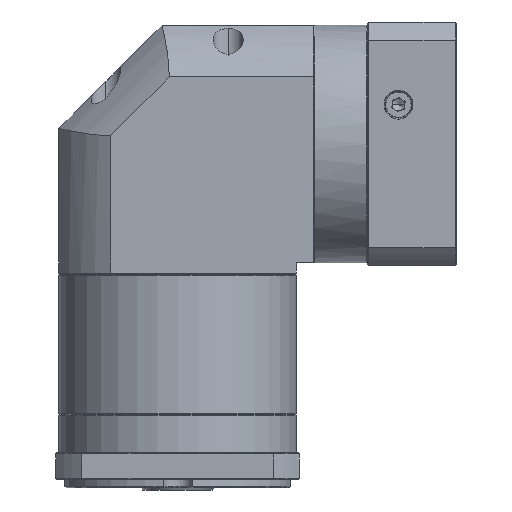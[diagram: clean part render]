
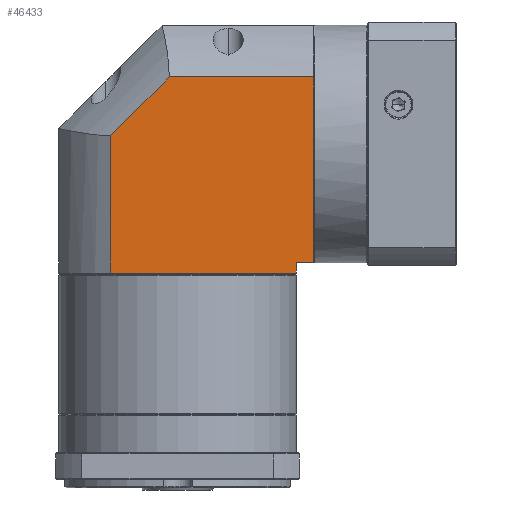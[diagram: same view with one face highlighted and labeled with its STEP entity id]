
A CAD part, front view. The second image highlights one B-rep face of the part: STEP entity #46433.
In plain terms, the highlighted planar face has unit normal (0, -1, 0).
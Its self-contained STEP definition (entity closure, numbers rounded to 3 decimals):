
#1845 = DIRECTION ( 'NONE',  ( 0.707, 0., 0.707 ) ) ;
#3006 = LINE ( 'NONE', #110003, #16989 ) ;
#5012 = CARTESIAN_POINT ( 'NONE',  ( -10.291, -5.231, 39.546 ) ) ;
#6326 = VERTEX_POINT ( 'NONE', #123588 ) ;
#7060 = VERTEX_POINT ( 'NONE', #22832 ) ;
#8335 = LINE ( 'NONE', #98387, #34764 ) ;
#8952 = VECTOR ( 'NONE', #124442, 1000. ) ;
#11286 = EDGE_CURVE ( 'NONE', #104223, #7060, #98684, .T. ) ;
#13552 = AXIS2_PLACEMENT_3D ( 'NONE', #33799, #103318, #52841 ) ;
#13846 = PLANE ( 'NONE',  #13552 ) ;
#15967 = ORIENTED_EDGE ( 'NONE', *, *, #73480, .F. ) ;
#16989 = VECTOR ( 'NONE', #1845, 1000. ) ;
#17389 = VECTOR ( 'NONE', #65507, 1000. ) ;
#18318 = LINE ( 'NONE', #81441, #74052 ) ;
#21709 = CARTESIAN_POINT ( 'NONE',  ( 113.109, -5.231, -50.354 ) ) ;
#22832 = CARTESIAN_POINT ( 'NONE',  ( 113.109, -5.231, 39.546 ) ) ;
#27993 = ORIENTED_EDGE ( 'NONE', *, *, #101983, .F. ) ;
#28198 = CARTESIAN_POINT ( 'NONE',  ( 104.709, -5.231, -61.854 ) ) ;
#33799 = CARTESIAN_POINT ( 'NONE',  ( -10.291, -5.231, -61.854 ) ) ;
#34764 = VECTOR ( 'NONE', #107855, 1000. ) ;
#38851 = VECTOR ( 'NONE', #47769, 1000. ) ;
#40359 = VECTOR ( 'NONE', #46219, 1000. ) ;
#43154 = CARTESIAN_POINT ( 'NONE',  ( 43.147, -5.231, 39.546 ) ) ;
#46219 = DIRECTION ( 'NONE',  ( 0., 0., 1. ) ) ;
#46433 = ADVANCED_FACE ( 'NONE', ( #48821 ), #13846, .F. ) ;
#47769 = DIRECTION ( 'NONE',  ( 0., 0., -1. ) ) ;
#48821 = FACE_OUTER_BOUND ( 'NONE', #119337, .T. ) ;
#49399 = VERTEX_POINT ( 'NONE', #88897 ) ;
#52841 = DIRECTION ( 'NONE',  ( 1., 0., 0. ) ) ;
#56044 = VERTEX_POINT ( 'NONE', #82141 ) ;
#56706 = EDGE_CURVE ( 'NONE', #6326, #56044, #121088, .T. ) ;
#62648 = EDGE_CURVE ( 'NONE', #113056, #76746, #8335, .T. ) ;
#65302 = ORIENTED_EDGE ( 'NONE', *, *, #62648, .F. ) ;
#65507 = DIRECTION ( 'NONE',  ( -1., 0., 0. ) ) ;
#73480 = EDGE_CURVE ( 'NONE', #49399, #104223, #3006, .T. ) ;
#74052 = VECTOR ( 'NONE', #126357, 1000. ) ;
#74495 = LINE ( 'NONE', #94920, #40359 ) ;
#76746 = VERTEX_POINT ( 'NONE', #112048 ) ;
#81003 = ORIENTED_EDGE ( 'NONE', *, *, #86572, .F. ) ;
#81441 = CARTESIAN_POINT ( 'NONE',  ( 113.109, -5.231, -61.854 ) ) ;
#82141 = CARTESIAN_POINT ( 'NONE',  ( 14.809, -5.231, -55.354 ) ) ;
#86572 = EDGE_CURVE ( 'NONE', #56044, #49399, #74495, .T. ) ;
#88897 = CARTESIAN_POINT ( 'NONE',  ( 14.809, -5.231, 11.208 ) ) ;
#93587 = CARTESIAN_POINT ( 'NONE',  ( -10.291, -5.231, -55.354 ) ) ;
#93805 = ORIENTED_EDGE ( 'NONE', *, *, #98812, .F. ) ;
#94920 = CARTESIAN_POINT ( 'NONE',  ( 14.809, -5.231, -61.854 ) ) ;
#98387 = CARTESIAN_POINT ( 'NONE',  ( -10.291, -5.231, -50.354 ) ) ;
#98684 = LINE ( 'NONE', #5012, #8952 ) ;
#98812 = EDGE_CURVE ( 'NONE', #7060, #113056, #18318, .T. ) ;
#101983 = EDGE_CURVE ( 'NONE', #76746, #6326, #114553, .T. ) ;
#103318 = DIRECTION ( 'NONE',  ( 0., 1., 0. ) ) ;
#104223 = VERTEX_POINT ( 'NONE', #43154 ) ;
#107855 = DIRECTION ( 'NONE',  ( -1., 0., 0. ) ) ;
#110003 = CARTESIAN_POINT ( 'NONE',  ( 14.809, -5.231, 11.208 ) ) ;
#111165 = ORIENTED_EDGE ( 'NONE', *, *, #56706, .F. ) ;
#112048 = CARTESIAN_POINT ( 'NONE',  ( 104.709, -5.231, -50.354 ) ) ;
#113056 = VERTEX_POINT ( 'NONE', #21709 ) ;
#114553 = LINE ( 'NONE', #28198, #38851 ) ;
#119337 = EDGE_LOOP ( 'NONE', ( #27993, #65302, #93805, #119385, #15967, #81003, #111165 ) ) ;
#119385 = ORIENTED_EDGE ( 'NONE', *, *, #11286, .F. ) ;
#121088 = LINE ( 'NONE', #93587, #17389 ) ;
#123588 = CARTESIAN_POINT ( 'NONE',  ( 104.709, -5.231, -55.354 ) ) ;
#124442 = DIRECTION ( 'NONE',  ( 1., 0., 0. ) ) ;
#126357 = DIRECTION ( 'NONE',  ( 0., 0., -1. ) ) ;
